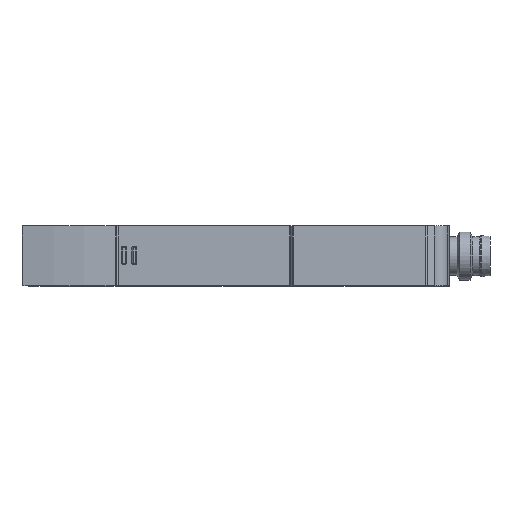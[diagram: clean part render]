
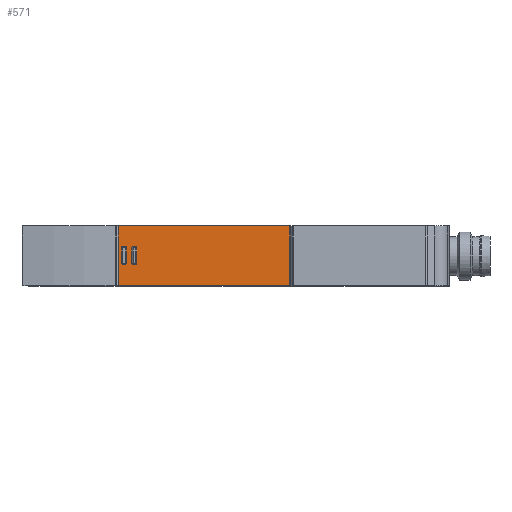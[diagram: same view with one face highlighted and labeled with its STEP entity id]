
A CAD part, top view. The second image highlights one B-rep face of the part: STEP entity #571.
In plain terms, the highlighted planar face has unit normal (0, 0, 1).
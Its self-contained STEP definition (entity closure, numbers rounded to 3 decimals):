
#571 = ADVANCED_FACE( '', ( #1213, #1214, #1215 ), #1216, .T. );
#1213 = FACE_OUTER_BOUND( '', #1894, .T. );
#1214 = FACE_BOUND( '', #1895, .T. );
#1215 = FACE_BOUND( '', #1896, .T. );
#1216 = PLANE( '', #1897 );
#1894 = EDGE_LOOP( '', ( #3554, #3555, #3556, #3557 ) );
#1895 = EDGE_LOOP( '', ( #3558, #3559, #3560, #3561, #3562, #3563, #3564, #3565 ) );
#1896 = EDGE_LOOP( '', ( #3566, #3567, #3568, #3569, #3570, #3571, #3572, #3573 ) );
#1897 = AXIS2_PLACEMENT_3D( '', #3574, #3575, #3576 );
#3554 = ORIENTED_EDGE( '', *, *, #4064, .F. );
#3555 = ORIENTED_EDGE( '', *, *, #4034, .T. );
#3556 = ORIENTED_EDGE( '', *, *, #4542, .T. );
#3557 = ORIENTED_EDGE( '', *, *, #4471, .T. );
#3558 = ORIENTED_EDGE( '', *, *, #3928, .T. );
#3559 = ORIENTED_EDGE( '', *, *, #4391, .T. );
#3560 = ORIENTED_EDGE( '', *, *, #4173, .T. );
#3561 = ORIENTED_EDGE( '', *, *, #4224, .T. );
#3562 = ORIENTED_EDGE( '', *, *, #4156, .T. );
#3563 = ORIENTED_EDGE( '', *, *, #4023, .T. );
#3564 = ORIENTED_EDGE( '', *, *, #4553, .T. );
#3565 = ORIENTED_EDGE( '', *, *, #4491, .T. );
#3566 = ORIENTED_EDGE( '', *, *, #4193, .F. );
#3567 = ORIENTED_EDGE( '', *, *, #4435, .T. );
#3568 = ORIENTED_EDGE( '', *, *, #4484, .F. );
#3569 = ORIENTED_EDGE( '', *, *, #3968, .T. );
#3570 = ORIENTED_EDGE( '', *, *, #4026, .F. );
#3571 = ORIENTED_EDGE( '', *, *, #4326, .T. );
#3572 = ORIENTED_EDGE( '', *, *, #4360, .F. );
#3573 = ORIENTED_EDGE( '', *, *, #4112, .T. );
#3574 = CARTESIAN_POINT( '', ( -25.685, -5., 18.849 ) );
#3575 = DIRECTION( '', ( 0., 0., 1. ) );
#3576 = DIRECTION( '', ( 1., 0., 0. ) );
#3928 = EDGE_CURVE( '', #4645, #4650, #4652, .T. );
#3968 = EDGE_CURVE( '', #4718, #4721, #4723, .F. );
#4023 = EDGE_CURVE( '', #4812, #4816, #4818, .F. );
#4026 = EDGE_CURVE( '', #4820, #4721, #4822, .T. );
#4034 = EDGE_CURVE( '', #4835, #4832, #4836, .F. );
#4064 = EDGE_CURVE( '', #4835, #4891, #4892, .T. );
#4112 = EDGE_CURVE( '', #4971, #4975, #4977, .F. );
#4156 = EDGE_CURVE( '', #5042, #4812, #5044, .T. );
#4173 = EDGE_CURVE( '', #5065, #5070, #5072, .T. );
#4193 = EDGE_CURVE( '', #5099, #4975, #5101, .T. );
#4224 = EDGE_CURVE( '', #5070, #5042, #5147, .F. );
#4326 = EDGE_CURVE( '', #4820, #5292, #5294, .F. );
#4360 = EDGE_CURVE( '', #4971, #5292, #5338, .T. );
#4391 = EDGE_CURVE( '', #4650, #5065, #5382, .F. );
#4435 = EDGE_CURVE( '', #5099, #5441, #5443, .F. );
#4471 = EDGE_CURVE( '', #5487, #4891, #5490, .T. );
#4484 = EDGE_CURVE( '', #4718, #5441, #5507, .T. );
#4491 = EDGE_CURVE( '', #5514, #4645, #5516, .F. );
#4542 = EDGE_CURVE( '', #4832, #5487, #5573, .T. );
#4553 = EDGE_CURVE( '', #4816, #5514, #5585, .T. );
#4645 = VERTEX_POINT( '', #5693 );
#4650 = VERTEX_POINT( '', #5700 );
#4652 = LINE( '', #5703, #5704 );
#4718 = VERTEX_POINT( '', #5862 );
#4721 = VERTEX_POINT( '', #5866 );
#4723 = CIRCLE( '', #5869, 0.3 );
#4812 = VERTEX_POINT( '', #6003 );
#4816 = VERTEX_POINT( '', #6008 );
#4818 = CIRCLE( '', #6011, 0.3 );
#4820 = VERTEX_POINT( '', #6013 );
#4822 = LINE( '', #6016, #6017 );
#4832 = VERTEX_POINT( '', #6029 );
#4835 = VERTEX_POINT( '', #6032 );
#4836 = LINE( '', #6033, #6034 );
#4891 = VERTEX_POINT( '', #6109 );
#4892 = LINE( '', #6110, #6111 );
#4971 = VERTEX_POINT( '', #6217 );
#4975 = VERTEX_POINT( '', #6222 );
#4977 = CIRCLE( '', #6225, 0.3 );
#5042 = VERTEX_POINT( '', #6308 );
#5044 = LINE( '', #6311, #6312 );
#5065 = VERTEX_POINT( '', #6343 );
#5070 = VERTEX_POINT( '', #6350 );
#5072 = LINE( '', #6353, #6354 );
#5099 = VERTEX_POINT( '', #6394 );
#5101 = LINE( '', #6397, #6398 );
#5147 = CIRCLE( '', #6464, 0.3 );
#5292 = VERTEX_POINT( '', #6685 );
#5294 = CIRCLE( '', #6688, 0.3 );
#5338 = LINE( '', #6745, #6746 );
#5382 = CIRCLE( '', #6827, 0.3 );
#5441 = VERTEX_POINT( '', #6904 );
#5443 = CIRCLE( '', #6907, 0.3 );
#5487 = VERTEX_POINT( '', #6984 );
#5490 = LINE( '', #6988, #6989 );
#5507 = LINE( '', #7007, #7008 );
#5514 = VERTEX_POINT( '', #7016 );
#5516 = CIRCLE( '', #7019, 0.3 );
#5573 = LINE( '', #7097, #7098 );
#5585 = LINE( '', #7113, #7114 );
#5693 = CARTESIAN_POINT( '', ( -24.441, -1.461, 18.849 ) );
#5700 = CARTESIAN_POINT( '', ( -24.624, -1.461, 18.849 ) );
#5703 = CARTESIAN_POINT( '', ( -24.141, -1.461, 18.849 ) );
#5704 = VECTOR( '', #7205, 1000. );
#5862 = CARTESIAN_POINT( '', ( -23.23, 1.33, 18.849 ) );
#5866 = CARTESIAN_POINT( '', ( -22.93, 1.63, 18.849 ) );
#5869 = AXIS2_PLACEMENT_3D( '', #7242, #7243, #7244 );
#6003 = CARTESIAN_POINT( '', ( -24.441, 1.63, 18.849 ) );
#6008 = CARTESIAN_POINT( '', ( -24.141, 1.33, 18.849 ) );
#6011 = AXIS2_PLACEMENT_3D( '', #7312, #7313, #7314 );
#6013 = CARTESIAN_POINT( '', ( -22.726, 1.63, 18.849 ) );
#6016 = CARTESIAN_POINT( '', ( -22.426, 1.63, 18.849 ) );
#6017 = VECTOR( '', #7316, 1000. );
#6029 = CARTESIAN_POINT( '', ( -25.507, -5., 18.849 ) );
#6032 = CARTESIAN_POINT( '', ( -25.507, 5., 18.849 ) );
#6033 = CARTESIAN_POINT( '', ( -25.507, -5., 18.849 ) );
#6034 = VECTOR( '', #7328, 1000. );
#6109 = CARTESIAN_POINT( '', ( 3.073, 5., 18.849 ) );
#6110 = CARTESIAN_POINT( '', ( -25.685, 5., 18.849 ) );
#6111 = VECTOR( '', #7373, 1000. );
#6217 = CARTESIAN_POINT( '', ( -22.426, -1.161, 18.849 ) );
#6222 = CARTESIAN_POINT( '', ( -22.726, -1.461, 18.849 ) );
#6225 = AXIS2_PLACEMENT_3D( '', #7445, #7446, #7447 );
#6308 = CARTESIAN_POINT( '', ( -24.624, 1.63, 18.849 ) );
#6311 = CARTESIAN_POINT( '', ( -24.924, 1.63, 18.849 ) );
#6312 = VECTOR( '', #7506, 1000. );
#6343 = CARTESIAN_POINT( '', ( -24.924, -1.161, 18.849 ) );
#6350 = CARTESIAN_POINT( '', ( -24.924, 1.33, 18.849 ) );
#6353 = CARTESIAN_POINT( '', ( -24.924, -1.461, 18.849 ) );
#6354 = VECTOR( '', #7520, 1000. );
#6394 = CARTESIAN_POINT( '', ( -22.93, -1.461, 18.849 ) );
#6397 = CARTESIAN_POINT( '', ( -23.23, -1.461, 18.849 ) );
#6398 = VECTOR( '', #7543, 1000. );
#6464 = AXIS2_PLACEMENT_3D( '', #7566, #7567, #7568 );
#6685 = CARTESIAN_POINT( '', ( -22.426, 1.33, 18.849 ) );
#6688 = AXIS2_PLACEMENT_3D( '', #7648, #7649, #7650 );
#6745 = CARTESIAN_POINT( '', ( -22.426, -1.461, 18.849 ) );
#6746 = VECTOR( '', #7691, 1000. );
#6827 = AXIS2_PLACEMENT_3D( '', #7714, #7715, #7716 );
#6904 = CARTESIAN_POINT( '', ( -23.23, -1.161, 18.849 ) );
#6907 = AXIS2_PLACEMENT_3D( '', #7763, #7764, #7765 );
#6984 = CARTESIAN_POINT( '', ( 3.073, -5., 18.849 ) );
#6988 = CARTESIAN_POINT( '', ( 3.073, 5., 18.849 ) );
#6989 = VECTOR( '', #7798, 1000. );
#7007 = CARTESIAN_POINT( '', ( -23.23, 1.63, 18.849 ) );
#7008 = VECTOR( '', #7821, 1000. );
#7016 = CARTESIAN_POINT( '', ( -24.141, -1.161, 18.849 ) );
#7019 = AXIS2_PLACEMENT_3D( '', #7827, #7828, #7829 );
#7097 = CARTESIAN_POINT( '', ( -25.685, -5., 18.849 ) );
#7098 = VECTOR( '', #7878, 1000. );
#7113 = CARTESIAN_POINT( '', ( -24.141, 1.63, 18.849 ) );
#7114 = VECTOR( '', #7891, 1000. );
#7205 = DIRECTION( '', ( -1., 0., 0. ) );
#7242 = CARTESIAN_POINT( '', ( -22.93, 1.33, 18.849 ) );
#7243 = DIRECTION( '', ( 0., 0., 1. ) );
#7244 = DIRECTION( '', ( 1., 0., 0. ) );
#7312 = CARTESIAN_POINT( '', ( -24.441, 1.33, 18.849 ) );
#7313 = DIRECTION( '', ( 0., 0., 1. ) );
#7314 = DIRECTION( '', ( 1., 0., 0. ) );
#7316 = DIRECTION( '', ( -1., 0., 0. ) );
#7328 = DIRECTION( '', ( 0., 1., 0. ) );
#7373 = DIRECTION( '', ( 1., 0., 0. ) );
#7445 = CARTESIAN_POINT( '', ( -22.726, -1.161, 18.849 ) );
#7446 = DIRECTION( '', ( 0., 0., 1. ) );
#7447 = DIRECTION( '', ( 1., 0., 0. ) );
#7506 = DIRECTION( '', ( 1., 0., 0. ) );
#7520 = DIRECTION( '', ( 0., 1., 0. ) );
#7543 = DIRECTION( '', ( 1., 0., 0. ) );
#7566 = CARTESIAN_POINT( '', ( -24.624, 1.33, 18.849 ) );
#7567 = DIRECTION( '', ( 0., 0., 1. ) );
#7568 = DIRECTION( '', ( 1., 0., 0. ) );
#7648 = CARTESIAN_POINT( '', ( -22.726, 1.33, 18.849 ) );
#7649 = DIRECTION( '', ( 0., 0., 1. ) );
#7650 = DIRECTION( '', ( 1., 0., 0. ) );
#7691 = DIRECTION( '', ( 0., 1., 0. ) );
#7714 = CARTESIAN_POINT( '', ( -24.624, -1.161, 18.849 ) );
#7715 = DIRECTION( '', ( 0., 0., 1. ) );
#7716 = DIRECTION( '', ( 1., 0., 0. ) );
#7763 = CARTESIAN_POINT( '', ( -22.93, -1.161, 18.849 ) );
#7764 = DIRECTION( '', ( 0., 0., 1. ) );
#7765 = DIRECTION( '', ( 1., 0., 0. ) );
#7798 = DIRECTION( '', ( 0., 1., 0. ) );
#7821 = DIRECTION( '', ( 0., -1., 0. ) );
#7827 = CARTESIAN_POINT( '', ( -24.441, -1.161, 18.849 ) );
#7828 = DIRECTION( '', ( 0., 0., 1. ) );
#7829 = DIRECTION( '', ( 1., 0., 0. ) );
#7878 = DIRECTION( '', ( 1., 0., 0. ) );
#7891 = DIRECTION( '', ( 0., -1., 0. ) );
